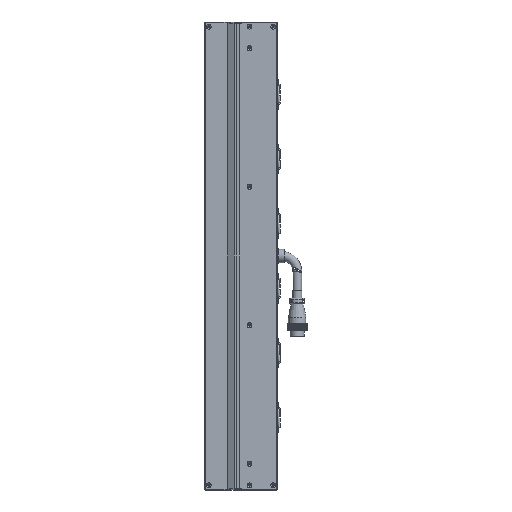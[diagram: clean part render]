
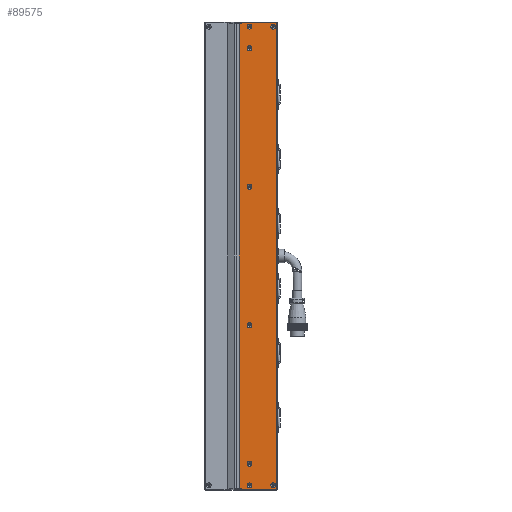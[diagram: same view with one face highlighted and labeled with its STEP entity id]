
A CAD part, left-side view. The second image highlights one B-rep face of the part: STEP entity #89575.
In plain terms, the highlighted planar face has unit normal (-1, 0, 0).
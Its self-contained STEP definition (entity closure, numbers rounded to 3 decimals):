
#124 = VERTEX_POINT ( 'NONE', #66179 ) ;
#1744 = PLANE ( 'NONE',  #117681 ) ;
#4764 = DIRECTION ( 'NONE',  ( 0., 0., -1. ) ) ;
#6286 = CARTESIAN_POINT ( 'NONE',  ( -24.998, -36.5, 298. ) ) ;
#6475 = AXIS2_PLACEMENT_3D ( 'NONE', #99704, #109625, #53544 ) ;
#6798 = EDGE_CURVE ( 'NONE', #53839, #101660, #82041, .T. ) ;
#6977 = DIRECTION ( 'NONE',  ( 0., 0., 1. ) ) ;
#7041 = CARTESIAN_POINT ( 'NONE',  ( -24.998, -23.25, -302. ) ) ;
#9946 = EDGE_CURVE ( 'NONE', #53839, #124, #91680, .T. ) ;
#10513 = CARTESIAN_POINT ( 'NONE',  ( -24.998, -72.5, 302. ) ) ;
#10677 = FACE_OUTER_BOUND ( 'NONE', #109331, .T. ) ;
#12163 = FACE_BOUND ( 'NONE', #71074, .T. ) ;
#12922 = DIRECTION ( 'NONE',  ( 0., 1., 0. ) ) ;
#15463 = VECTOR ( 'NONE', #12922, 1000. ) ;
#17174 = LINE ( 'NONE', #113280, #56831 ) ;
#17456 = CARTESIAN_POINT ( 'NONE',  ( -24.998, -72., 302. ) ) ;
#19177 = EDGE_LOOP ( 'NONE', ( #30543 ) ) ;
#19202 = FACE_BOUND ( 'NONE', #117878, .T. ) ;
#20279 = LINE ( 'NONE', #102174, #89969 ) ;
#21072 = AXIS2_PLACEMENT_3D ( 'NONE', #53058, #71337, #106777 ) ;
#21755 = VERTEX_POINT ( 'NONE', #89220 ) ;
#24782 = DIRECTION ( 'NONE',  ( -1., 0., 0. ) ) ;
#24947 = FACE_BOUND ( 'NONE', #55512, .T. ) ;
#25711 = ORIENTED_EDGE ( 'NONE', *, *, #107556, .T. ) ;
#28533 = CIRCLE ( 'NONE', #64049, 3.15 ) ;
#30317 = VERTEX_POINT ( 'NONE', #35112 ) ;
#30543 = ORIENTED_EDGE ( 'NONE', *, *, #43339, .F. ) ;
#31068 = DIRECTION ( 'NONE',  ( -1., 0., 0. ) ) ;
#34128 = DIRECTION ( 'NONE',  ( 0., -1., 0. ) ) ;
#34602 = AXIS2_PLACEMENT_3D ( 'NONE', #66847, #31068, #112978 ) ;
#34884 = CIRCLE ( 'NONE', #6475, 3.15 ) ;
#35112 = CARTESIAN_POINT ( 'NONE',  ( -24.998, -36.5, 93.15 ) ) ;
#37463 = CARTESIAN_POINT ( 'NONE',  ( -24.998, -23.25, 302. ) ) ;
#38804 = AXIS2_PLACEMENT_3D ( 'NONE', #79315, #80478, #6977 ) ;
#40465 = LINE ( 'NONE', #65428, #110178 ) ;
#40578 = VECTOR ( 'NONE', #115356, 1000. ) ;
#41787 = AXIS2_PLACEMENT_3D ( 'NONE', #102175, #56394, #92237 ) ;
#41888 = CIRCLE ( 'NONE', #68391, 3.15 ) ;
#42120 = ORIENTED_EDGE ( 'NONE', *, *, #84958, .T. ) ;
#42789 = DIRECTION ( 'NONE',  ( -1., 0., 0. ) ) ;
#43339 = EDGE_CURVE ( 'NONE', #56039, #56039, #110782, .T. ) ;
#44055 = VERTEX_POINT ( 'NONE', #64511 ) ;
#44483 = DIRECTION ( 'NONE',  ( 0., 0., 1. ) ) ;
#44560 = CIRCLE ( 'NONE', #38804, 3.15 ) ;
#44563 = EDGE_CURVE ( 'NONE', #110159, #110159, #44560, .T. ) ;
#47181 = CARTESIAN_POINT ( 'NONE',  ( -24.998, -36.5, -294.85 ) ) ;
#47823 = CIRCLE ( 'NONE', #34602, 3.15 ) ;
#48119 = ORIENTED_EDGE ( 'NONE', *, *, #51549, .F. ) ;
#49917 = CARTESIAN_POINT ( 'NONE',  ( -24.998, -36.5, -266.85 ) ) ;
#51549 = EDGE_CURVE ( 'NONE', #101660, #96168, #20279, .T. ) ;
#51808 = LINE ( 'NONE', #17456, #87304 ) ;
#51965 = ORIENTED_EDGE ( 'NONE', *, *, #116278, .F. ) ;
#52030 = CARTESIAN_POINT ( 'NONE',  ( -24.998, -72.5, -302. ) ) ;
#53058 = CARTESIAN_POINT ( 'NONE',  ( -24.998, -36.5, -270. ) ) ;
#53312 = DIRECTION ( 'NONE',  ( 0., 0., 1. ) ) ;
#53544 = DIRECTION ( 'NONE',  ( 0., 0., 1. ) ) ;
#53839 = VERTEX_POINT ( 'NONE', #7041 ) ;
#55300 = VERTEX_POINT ( 'NONE', #99622 ) ;
#55512 = EDGE_LOOP ( 'NONE', ( #73030 ) ) ;
#56039 = VERTEX_POINT ( 'NONE', #91749 ) ;
#56394 = DIRECTION ( 'NONE',  ( -1., 0., 0. ) ) ;
#56530 = DIRECTION ( 'NONE',  ( 0., 0., -1. ) ) ;
#56831 = VECTOR ( 'NONE', #4764, 1000. ) ;
#58356 = VERTEX_POINT ( 'NONE', #88691 ) ;
#61402 = VERTEX_POINT ( 'NONE', #74465 ) ;
#61797 = ORIENTED_EDGE ( 'NONE', *, *, #44563, .F. ) ;
#61919 = ORIENTED_EDGE ( 'NONE', *, *, #79934, .F. ) ;
#63981 = ORIENTED_EDGE ( 'NONE', *, *, #88619, .F. ) ;
#64049 = AXIS2_PLACEMENT_3D ( 'NONE', #113629, #78233, #104480 ) ;
#64511 = CARTESIAN_POINT ( 'NONE',  ( -24.998, -72., 303.5 ) ) ;
#64852 = DIRECTION ( 'NONE',  ( 0., 0., 1. ) ) ;
#65428 = CARTESIAN_POINT ( 'NONE',  ( -24.998, -72.5, -303.5 ) ) ;
#66179 = CARTESIAN_POINT ( 'NONE',  ( -24.998, -26.5, -302. ) ) ;
#66847 = CARTESIAN_POINT ( 'NONE',  ( -24.998, -67.5, 298. ) ) ;
#67468 = VECTOR ( 'NONE', #34128, 1000. ) ;
#68391 = AXIS2_PLACEMENT_3D ( 'NONE', #71968, #24782, #53312 ) ;
#69097 = ORIENTED_EDGE ( 'NONE', *, *, #82258, .T. ) ;
#69902 = CARTESIAN_POINT ( 'NONE',  ( -24.998, -26.5, 302. ) ) ;
#70112 = ORIENTED_EDGE ( 'NONE', *, *, #6798, .F. ) ;
#71074 = EDGE_LOOP ( 'NONE', ( #51965 ) ) ;
#71337 = DIRECTION ( 'NONE',  ( -1., 0., 0. ) ) ;
#71968 = CARTESIAN_POINT ( 'NONE',  ( -24.998, -36.5, 90. ) ) ;
#72675 = ORIENTED_EDGE ( 'NONE', *, *, #9946, .T. ) ;
#73030 = ORIENTED_EDGE ( 'NONE', *, *, #81813, .F. ) ;
#73352 = CIRCLE ( 'NONE', #75754, 3.15 ) ;
#74465 = CARTESIAN_POINT ( 'NONE',  ( -24.998, -67.5, 301.15 ) ) ;
#74850 = CARTESIAN_POINT ( 'NONE',  ( -24.998, -67.5, -294.85 ) ) ;
#75754 = AXIS2_PLACEMENT_3D ( 'NONE', #6286, #42789, #96942 ) ;
#77078 = VERTEX_POINT ( 'NONE', #100383 ) ;
#78233 = DIRECTION ( 'NONE',  ( -1., 0., 0. ) ) ;
#79315 = CARTESIAN_POINT ( 'NONE',  ( -24.998, -36.5, -298. ) ) ;
#79934 = EDGE_CURVE ( 'NONE', #88683, #88683, #91213, .T. ) ;
#80378 = LINE ( 'NONE', #97896, #40578 ) ;
#80478 = DIRECTION ( 'NONE',  ( -1., 0., 0. ) ) ;
#81813 = EDGE_CURVE ( 'NONE', #30317, #30317, #41888, .T. ) ;
#82041 = LINE ( 'NONE', #110227, #113458 ) ;
#82258 = EDGE_CURVE ( 'NONE', #58356, #44055, #51808, .T. ) ;
#82580 = EDGE_CURVE ( 'NONE', #124, #88312, #17174, .T. ) ;
#83703 = DIRECTION ( 'NONE',  ( 0., -1., 0. ) ) ;
#84245 = VERTEX_POINT ( 'NONE', #74850 ) ;
#84958 = EDGE_CURVE ( 'NONE', #44055, #55300, #112203, .T. ) ;
#87304 = VECTOR ( 'NONE', #44483, 1000. ) ;
#88312 = VERTEX_POINT ( 'NONE', #92609 ) ;
#88619 = EDGE_CURVE ( 'NONE', #21755, #21755, #73352, .T. ) ;
#88683 = VERTEX_POINT ( 'NONE', #49917 ) ;
#88691 = CARTESIAN_POINT ( 'NONE',  ( -24.998, -72., -303.5 ) ) ;
#89220 = CARTESIAN_POINT ( 'NONE',  ( -24.998, -36.5, 301.15 ) ) ;
#89575 = ADVANCED_FACE ( 'NONE', ( #12163, #100342, #101706, #19202, #24947, #113121, #96036, #97505, #10677 ), #1744, .F. ) ;
#89969 = VECTOR ( 'NONE', #102083, 1000. ) ;
#91213 = CIRCLE ( 'NONE', #21072, 3.15 ) ;
#91680 = LINE ( 'NONE', #52030, #67468 ) ;
#91749 = CARTESIAN_POINT ( 'NONE',  ( -24.998, -36.5, 273.15 ) ) ;
#92237 = DIRECTION ( 'NONE',  ( 0., 0., 1. ) ) ;
#92609 = CARTESIAN_POINT ( 'NONE',  ( -24.998, -26.5, -303.5 ) ) ;
#93172 = ORIENTED_EDGE ( 'NONE', *, *, #111488, .F. ) ;
#96036 = FACE_BOUND ( 'NONE', #106619, .T. ) ;
#96168 = VERTEX_POINT ( 'NONE', #69902 ) ;
#96942 = DIRECTION ( 'NONE',  ( 0., 0., 1. ) ) ;
#97505 = FACE_BOUND ( 'NONE', #117222, .T. ) ;
#97896 = CARTESIAN_POINT ( 'NONE',  ( -24.998, -26.5, 295. ) ) ;
#99622 = CARTESIAN_POINT ( 'NONE',  ( -24.998, -26.5, 303.5 ) ) ;
#99704 = CARTESIAN_POINT ( 'NONE',  ( -24.998, -67.5, -298. ) ) ;
#100342 = FACE_BOUND ( 'NONE', #116423, .T. ) ;
#100383 = CARTESIAN_POINT ( 'NONE',  ( -24.998, -36.5, -86.85 ) ) ;
#101660 = VERTEX_POINT ( 'NONE', #37463 ) ;
#101706 = FACE_BOUND ( 'NONE', #107858, .T. ) ;
#102083 = DIRECTION ( 'NONE',  ( 0., -1., 0. ) ) ;
#102174 = CARTESIAN_POINT ( 'NONE',  ( -24.998, -72.5, 302. ) ) ;
#102175 = CARTESIAN_POINT ( 'NONE',  ( -24.998, -36.5, 270. ) ) ;
#104480 = DIRECTION ( 'NONE',  ( 0., 0., 1. ) ) ;
#106619 = EDGE_LOOP ( 'NONE', ( #112280 ) ) ;
#106777 = DIRECTION ( 'NONE',  ( 0., 0., 1. ) ) ;
#107556 = EDGE_CURVE ( 'NONE', #55300, #96168, #80378, .T. ) ;
#107858 = EDGE_LOOP ( 'NONE', ( #61919 ) ) ;
#108331 = EDGE_CURVE ( 'NONE', #88312, #58356, #40465, .T. ) ;
#109331 = EDGE_LOOP ( 'NONE', ( #72675, #117269, #114132, #69097, #42120, #25711, #48119, #70112 ) ) ;
#109625 = DIRECTION ( 'NONE',  ( -1., 0., 0. ) ) ;
#110159 = VERTEX_POINT ( 'NONE', #47181 ) ;
#110178 = VECTOR ( 'NONE', #83703, 1000. ) ;
#110227 = CARTESIAN_POINT ( 'NONE',  ( -24.998, -23.25, -302. ) ) ;
#110782 = CIRCLE ( 'NONE', #41787, 3.15 ) ;
#111067 = DIRECTION ( 'NONE',  ( 1., 0., 0. ) ) ;
#111488 = EDGE_CURVE ( 'NONE', #77078, #77078, #28533, .T. ) ;
#112203 = LINE ( 'NONE', #112691, #15463 ) ;
#112280 = ORIENTED_EDGE ( 'NONE', *, *, #117027, .F. ) ;
#112691 = CARTESIAN_POINT ( 'NONE',  ( -24.998, -72.5, 303.5 ) ) ;
#112978 = DIRECTION ( 'NONE',  ( 0., 0., 1. ) ) ;
#113121 = FACE_BOUND ( 'NONE', #19177, .T. ) ;
#113280 = CARTESIAN_POINT ( 'NONE',  ( -24.998, -26.5, -295. ) ) ;
#113458 = VECTOR ( 'NONE', #64852, 1000. ) ;
#113629 = CARTESIAN_POINT ( 'NONE',  ( -24.998, -36.5, -90. ) ) ;
#114132 = ORIENTED_EDGE ( 'NONE', *, *, #108331, .T. ) ;
#115356 = DIRECTION ( 'NONE',  ( 0., 0., -1. ) ) ;
#116278 = EDGE_CURVE ( 'NONE', #61402, #61402, #47823, .T. ) ;
#116423 = EDGE_LOOP ( 'NONE', ( #63981 ) ) ;
#117027 = EDGE_CURVE ( 'NONE', #84245, #84245, #34884, .T. ) ;
#117222 = EDGE_LOOP ( 'NONE', ( #61797 ) ) ;
#117269 = ORIENTED_EDGE ( 'NONE', *, *, #82580, .T. ) ;
#117681 = AXIS2_PLACEMENT_3D ( 'NONE', #10513, #111067, #56530 ) ;
#117878 = EDGE_LOOP ( 'NONE', ( #93172 ) ) ;
